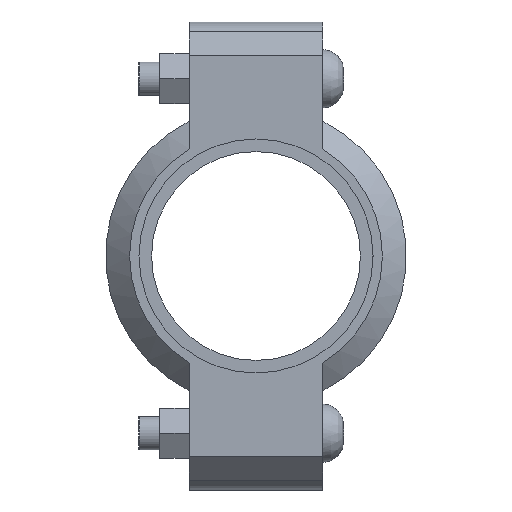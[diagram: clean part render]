
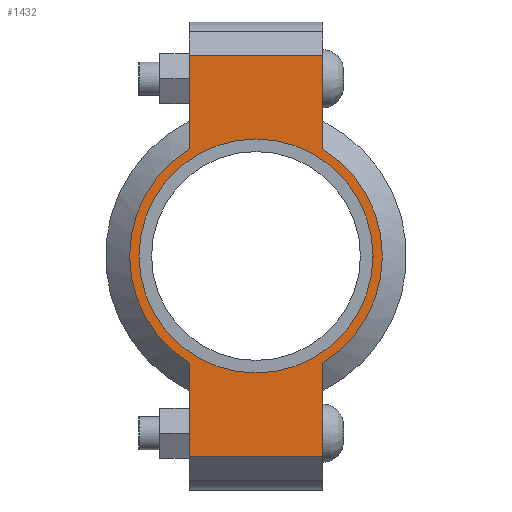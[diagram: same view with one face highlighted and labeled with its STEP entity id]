
A CAD part, left-side view. The second image highlights one B-rep face of the part: STEP entity #1432.
In plain terms, the highlighted planar face has unit normal (-1, 0, 0) as drawn and (0, 0, 1) by its records, which use the part's own axes.
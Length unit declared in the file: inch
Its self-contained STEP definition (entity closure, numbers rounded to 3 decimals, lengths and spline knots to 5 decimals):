
#112=LINE('',#2465,#203);
#120=LINE('',#2501,#211);
#127=LINE('',#2522,#218);
#136=LINE('',#2554,#227);
#137=LINE('',#2558,#228);
#138=LINE('',#2560,#229);
#203=VECTOR('',#1999,0.3937);
#211=VECTOR('',#2015,0.3937);
#218=VECTOR('',#2034,0.3937);
#227=VECTOR('',#2059,0.3937);
#228=VECTOR('',#2064,0.3937);
#229=VECTOR('',#2065,0.3937);
#281=FACE_BOUND('',#441,.T.);
#345=FACE_OUTER_BOUND('',#440,.T.);
#440=EDGE_LOOP('',(#1167,#1168,#1169,#1170,#1171,#1172,#1173,#1174));
#441=EDGE_LOOP('',(#1175));
#538=CIRCLE('',#1675,1.89);
#539=CIRCLE('',#1676,1.89);
#540=CIRCLE('',#1677,1.75);
#643=VERTEX_POINT('',#2462);
#644=VERTEX_POINT('',#2464);
#655=VERTEX_POINT('',#2496);
#656=VERTEX_POINT('',#2500);
#663=VERTEX_POINT('',#2519);
#664=VERTEX_POINT('',#2521);
#674=VERTEX_POINT('',#2557);
#675=VERTEX_POINT('',#2559);
#676=VERTEX_POINT('',#2562);
#807=EDGE_CURVE('',#644,#643,#112,.T.);
#821=EDGE_CURVE('',#656,#655,#120,.T.);
#831=EDGE_CURVE('',#664,#663,#127,.T.);
#846=EDGE_CURVE('',#656,#643,#136,.T.);
#847=EDGE_CURVE('',#655,#664,#538,.T.);
#848=EDGE_CURVE('',#674,#663,#137,.T.);
#849=EDGE_CURVE('',#674,#675,#138,.T.);
#850=EDGE_CURVE('',#675,#644,#539,.T.);
#851=EDGE_CURVE('',#676,#676,#540,.T.);
#1167=ORIENTED_EDGE('',*,*,#846,.F.);
#1168=ORIENTED_EDGE('',*,*,#821,.T.);
#1169=ORIENTED_EDGE('',*,*,#847,.T.);
#1170=ORIENTED_EDGE('',*,*,#831,.T.);
#1171=ORIENTED_EDGE('',*,*,#848,.F.);
#1172=ORIENTED_EDGE('',*,*,#849,.T.);
#1173=ORIENTED_EDGE('',*,*,#850,.T.);
#1174=ORIENTED_EDGE('',*,*,#807,.T.);
#1175=ORIENTED_EDGE('',*,*,#851,.T.);
#1286=PLANE('',#1674);
#1432=ADVANCED_FACE('',(#345,#281),#1286,.T.);
#1674=AXIS2_PLACEMENT_3D('',#2555,#2060,#2061);
#1675=AXIS2_PLACEMENT_3D('',#2556,#2062,#2063);
#1676=AXIS2_PLACEMENT_3D('',#2561,#2066,#2067);
#1677=AXIS2_PLACEMENT_3D('',#2563,#2068,#2069);
#1999=DIRECTION('',(-1.,0.,0.));
#2015=DIRECTION('',(1.,0.,0.));
#2034=DIRECTION('',(1.,0.,0.));
#2059=DIRECTION('',(0.,1.,0.));
#2060=DIRECTION('center_axis',(0.,0.,1.));
#2061=DIRECTION('ref_axis',(1.,0.,0.));
#2062=DIRECTION('center_axis',(0.,0.,1.));
#2063=DIRECTION('ref_axis',(-1.,0.,0.));
#2064=DIRECTION('',(0.,-1.,0.));
#2065=DIRECTION('',(-1.,0.,0.));
#2066=DIRECTION('center_axis',(0.,0.,1.));
#2067=DIRECTION('ref_axis',(-1.,0.,0.));
#2068=DIRECTION('center_axis',(0.,0.,-1.));
#2069=DIRECTION('ref_axis',(-1.,0.,0.));
#2462=CARTESIAN_POINT('',(-3.,1.,0.94));
#2464=CARTESIAN_POINT('',(-1.60378,1.,0.94));
#2465=CARTESIAN_POINT('',(-3.5,1.,0.94));
#2496=CARTESIAN_POINT('',(-1.60378,-1.,0.94));
#2500=CARTESIAN_POINT('',(-3.,-1.,0.94));
#2501=CARTESIAN_POINT('',(3.5,-1.,0.94));
#2519=CARTESIAN_POINT('',(3.,-1.,0.94));
#2521=CARTESIAN_POINT('',(1.60378,-1.,0.94));
#2522=CARTESIAN_POINT('',(3.5,-1.,0.94));
#2554=CARTESIAN_POINT('',(-3.,0.5,0.94));
#2555=CARTESIAN_POINT('Origin',(0.,0.,
0.94));
#2556=CARTESIAN_POINT('Origin',(0.,0.,0.94));
#2557=CARTESIAN_POINT('',(3.,1.,0.94));
#2558=CARTESIAN_POINT('',(3.,-0.5,0.94));
#2559=CARTESIAN_POINT('',(1.60378,1.,0.94));
#2560=CARTESIAN_POINT('',(-3.5,1.,0.94));
#2561=CARTESIAN_POINT('Origin',(0.,0.,0.94));
#2562=CARTESIAN_POINT('',(1.75,0.,0.94));
#2563=CARTESIAN_POINT('Origin',(0.,0.,0.94));
